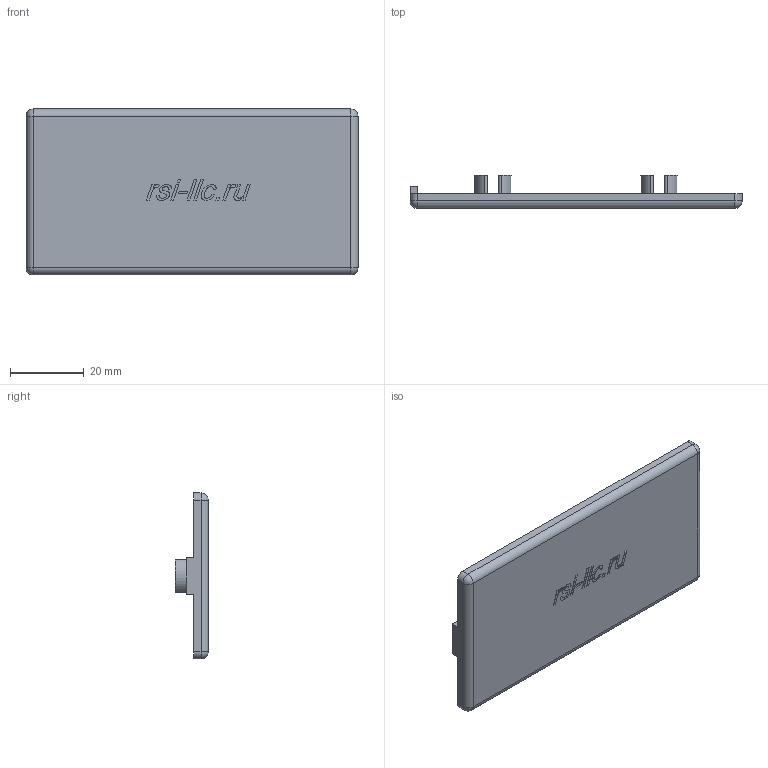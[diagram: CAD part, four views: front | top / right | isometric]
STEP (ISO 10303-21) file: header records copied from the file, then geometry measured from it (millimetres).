
FILE_DESCRIPTION (( 'STEP AP214' ), '1' );
FILE_NAME ('4010.STEP', '2020-10-21T09:03:27', ( '' ), ( '' ), 'SwSTEP 2.0', 'SolidWorks 2018', '' );
FILE_SCHEMA (( 'AUTOMOTIVE_DESIGN' ));
Length unit declared in the file: millimetre
Products named in the file (1): 4010
Bounding box: 90 x 9.1 x 45 mm (x, y, z)
Volume: 9275.3 mm3; surface area: 10058.9 mm2
Topology: 1 solids, 1 shells, 176 faces, 445 edges, 282 vertices
Faces by surface type: plane 80, cylinder 36, bspline 32, torus 24, sphere 4
Entity records: 8045 total; most frequent: CARTESIAN_POINT 2884, ORIENTED_EDGE 882, DIRECTION 787, EDGE_CURVE 441, VERTEX_POINT 282, AXIS2_PLACEMENT_3D 265, LINE 257, VECTOR 257
